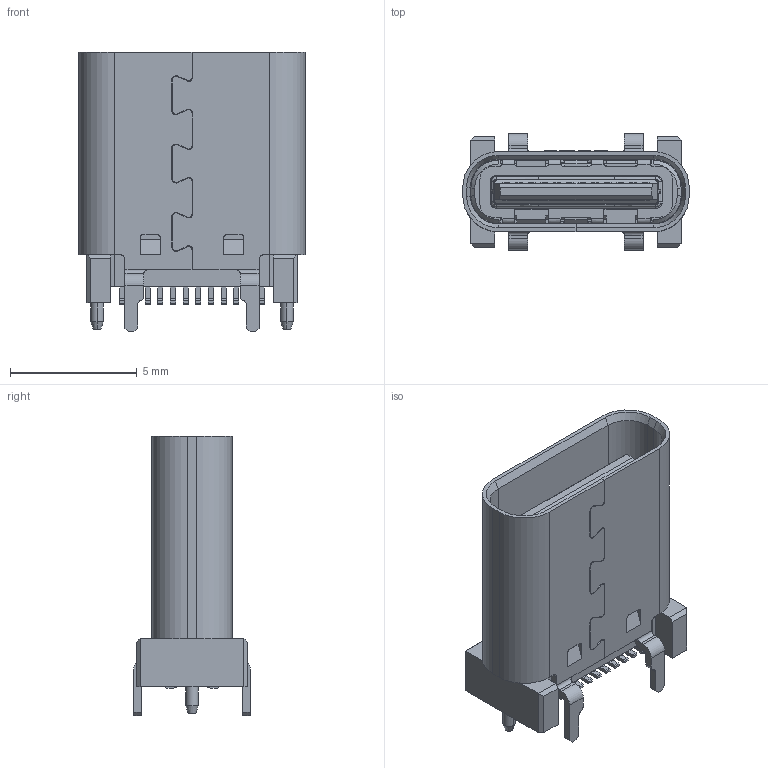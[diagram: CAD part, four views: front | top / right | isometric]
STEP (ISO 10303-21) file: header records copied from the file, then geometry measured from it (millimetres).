
FILE_DESCRIPTION (( 'STEP AP203' ), '1' );
FILE_NAME ('U5195-24PN10.0L.STEP', '2026-09-21T07:50:00', ( '' ), ( '' ), 'SwSTEP 2.0', 'SolidWorks 2024', '' );
FILE_SCHEMA (( 'CONFIG_CONTROL_DESIGN' ));
Length unit declared in the file: millimetre
Products named in the file (1): U5195-24PN10.0L
Bounding box: 8.94 x 4.6 x 11.05 mm (x, y, z)
Volume: 207.9 mm3; surface area: 1176 mm2
Topology: 30 solids, 30 shells, 2410 faces, 6987 edges, 4626 vertices
Faces by surface type: plane 1766, cylinder 577, bspline 29, cone 25, torus 13
Entity records: 81049 total; most frequent: CARTESIAN_POINT 17354, ORIENTED_EDGE 13974, DIRECTION 12292, EDGE_CURVE 6987, VECTOR 5426, LINE 5426, VERTEX_POINT 4626, AXIS2_PLACEMENT_3D 3433
